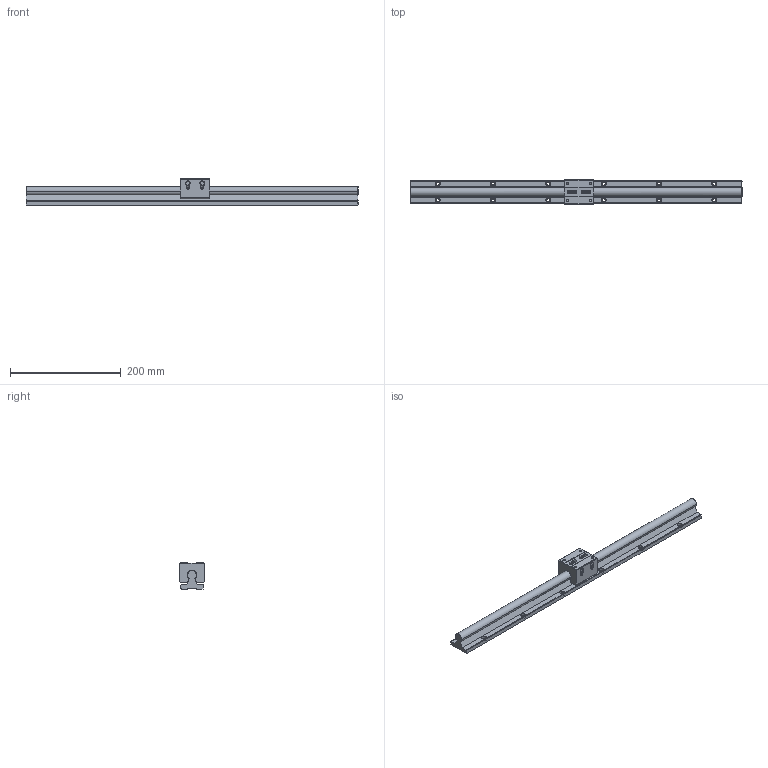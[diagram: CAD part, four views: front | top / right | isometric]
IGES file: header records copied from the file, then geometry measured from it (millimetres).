
Global section: file name: No Iges File Name specified; native system: AutoDesk Inventor R10; preprocessor: AutoDesk Inventor Iges Exporter R10; author: No Author specified; organization: No Organization specified; date: 20101222.160707; units: millimetre
Bounding box: 600 x 45 x 47 mm (x, y, z)
Surface area: 105771.3 mm2 (no closed solid volume)
Topology: 0 solids, 0 shells, 360 faces, 2718 edges, 2698 vertices
Faces by surface type: bspline 360
